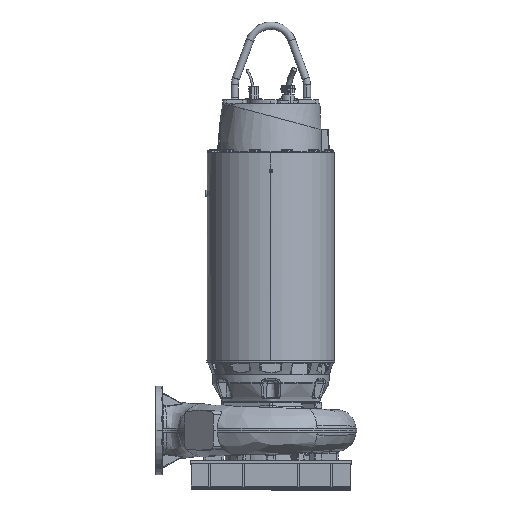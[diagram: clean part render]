
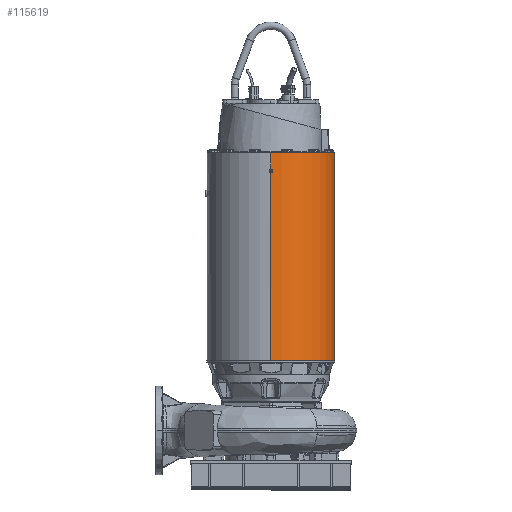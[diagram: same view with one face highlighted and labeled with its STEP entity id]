
A CAD part, top view. The second image highlights one B-rep face of the part: STEP entity #115619.
In plain terms, the highlighted cylindrical face has radius 344 mm (diameter 688 mm), a partial arc.
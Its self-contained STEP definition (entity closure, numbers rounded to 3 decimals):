
#3118 = ORIENTED_EDGE ( 'NONE', *, *, #30245, .T. ) ;
#4333 = CARTESIAN_POINT ( 'NONE',  ( 0., -20., 0. ) ) ;
#11651 = ORIENTED_EDGE ( 'NONE', *, *, #249840, .T. ) ;
#18864 = CARTESIAN_POINT ( 'NONE',  ( 0., 994.03, -344. ) ) ;
#23234 = CARTESIAN_POINT ( 'NONE',  ( 0., -20., 344. ) ) ;
#25141 = CARTESIAN_POINT ( 'NONE',  ( 0., 994.03, -344. ) ) ;
#26218 = DIRECTION ( 'NONE',  ( 1., 0., 0. ) ) ;
#30245 = EDGE_CURVE ( 'NONE', #88749, #255248, #277162, .T. ) ;
#30397 =( BOUNDED_CURVE ( )  B_SPLINE_CURVE ( 3, ( #54485, #228281, #164751, #34523 ),
 .UNSPECIFIED., .F., .F. ) 
 B_SPLINE_CURVE_WITH_KNOTS ( ( 4, 4 ),
 ( 1.571, 1.598 ),
 .UNSPECIFIED. ) 
 CURVE ( )  GEOMETRIC_REPRESENTATION_ITEM ( )  RATIONAL_B_SPLINE_CURVE ( ( 1., 1., 1., 1. ) ) 
 REPRESENTATION_ITEM ( '' )  );
#31879 = DIRECTION ( 'NONE',  ( 0., -1., 0. ) ) ;
#34054 = VERTEX_POINT ( 'NONE', #176014 ) ;
#34523 = CARTESIAN_POINT ( 'NONE',  ( 9.5, 1010.485, -343.869 ) ) ;
#35402 = CARTESIAN_POINT ( 'NONE',  ( 0., -20., -344. ) ) ;
#36623 = VECTOR ( 'NONE', #99909, 1000. ) ;
#39394 = LINE ( 'NONE', #280654, #90530 ) ;
#41840 = ORIENTED_EDGE ( 'NONE', *, *, #46504, .F. ) ;
#46504 = EDGE_CURVE ( 'NONE', #278261, #221685, #231787, .T. ) ;
#49665 = LINE ( 'NONE', #232752, #100752 ) ;
#50760 = CARTESIAN_POINT ( 'NONE',  ( 0., 1105., 344. ) ) ;
#51661 = CARTESIAN_POINT ( 'NONE',  ( 9.5, 999.515, 343.869 ) ) ;
#54485 = CARTESIAN_POINT ( 'NONE',  ( 0., 1015.97, -344. ) ) ;
#56084 = FACE_OUTER_BOUND ( 'NONE', #247282, .T. ) ;
#59370 = CARTESIAN_POINT ( 'NONE',  ( 0., 994.03, 344. ) ) ;
#61140 = VERTEX_POINT ( 'NONE', #135357 ) ;
#67082 = AXIS2_PLACEMENT_3D ( 'NONE', #96374, #226304, #183707 ) ;
#68378 = CIRCLE ( 'NONE', #241709, 344. ) ;
#69738 = CARTESIAN_POINT ( 'NONE',  ( 0., 0., 344. ) ) ;
#76750 = ORIENTED_EDGE ( 'NONE', *, *, #219601, .F. ) ;
#77981 = CARTESIAN_POINT ( 'NONE',  ( 0., 0., -344. ) ) ;
#78776 = DIRECTION ( 'NONE',  ( 0., -1., 0. ) ) ;
#85081 = LINE ( 'NONE', #69738, #200581 ) ;
#88749 = VERTEX_POINT ( 'NONE', #186926 ) ;
#89609 = CARTESIAN_POINT ( 'NONE',  ( 9.5, 1245.349, -343.869 ) ) ;
#90530 = VECTOR ( 'NONE', #257124, 1000. ) ;
#93437 = EDGE_CURVE ( 'NONE', #120115, #221685, #85081, .T. ) ;
#96374 = CARTESIAN_POINT ( 'NONE',  ( 0., 0., 0. ) ) ;
#97653 = ORIENTED_EDGE ( 'NONE', *, *, #93437, .T. ) ;
#99909 = DIRECTION ( 'NONE',  ( 0., -1., 0. ) ) ;
#100752 = VECTOR ( 'NONE', #168322, 1000. ) ;
#109195 = VERTEX_POINT ( 'NONE', #18864 ) ;
#110903 = ORIENTED_EDGE ( 'NONE', *, *, #275375, .T. ) ;
#111768 = CARTESIAN_POINT ( 'NONE',  ( 9.5, 999.515, -343.869 ) ) ;
#111936 = CARTESIAN_POINT ( 'NONE',  ( 9.5, 1010.485, 343.869 ) ) ;
#115619 = ADVANCED_FACE ( 'NONE', ( #56084 ), #259780, .T. ) ;
#120115 = VERTEX_POINT ( 'NONE', #138684 ) ;
#126740 = EDGE_CURVE ( 'NONE', #34054, #205639, #159166, .T. ) ;
#133509 = CARTESIAN_POINT ( 'NONE',  ( 6.334, 997.687, -343.956 ) ) ;
#134192 = DIRECTION ( 'NONE',  ( 0., -1., 0. ) ) ;
#135357 = CARTESIAN_POINT ( 'NONE',  ( 9.5, 999.515, -343.869 ) ) ;
#138684 = CARTESIAN_POINT ( 'NONE',  ( 0., 994.03, 344. ) ) ;
#139407 = VERTEX_POINT ( 'NONE', #202440 ) ;
#140087 =( BOUNDED_CURVE ( )  B_SPLINE_CURVE ( 3, ( #230321, #143991, #189572, #59370 ),
 .UNSPECIFIED., .F., .F. ) 
 B_SPLINE_CURVE_WITH_KNOTS ( ( 4, 4 ),
 ( 1.543, 1.571 ),
 .UNSPECIFIED. ) 
 CURVE ( )  GEOMETRIC_REPRESENTATION_ITEM ( )  RATIONAL_B_SPLINE_CURVE ( ( 1., 1., 1., 1. ) ) 
 REPRESENTATION_ITEM ( '' )  );
#143024 = EDGE_CURVE ( 'NONE', #197737, #61140, #281312, .T. ) ;
#143991 = CARTESIAN_POINT ( 'NONE',  ( 6.334, 997.687, 343.956 ) ) ;
#147595 = EDGE_CURVE ( 'NONE', #160144, #139407, #49665, .T. ) ;
#155071 =( BOUNDED_CURVE ( )  B_SPLINE_CURVE ( 3, ( #197361, #219129, #241784, #111936 ),
 .UNSPECIFIED., .F., .T. ) 
 B_SPLINE_CURVE_WITH_KNOTS ( ( 4, 4 ),
 ( 1.571, 1.598 ),
 .UNSPECIFIED. ) 
 CURVE ( )  GEOMETRIC_REPRESENTATION_ITEM ( )  RATIONAL_B_SPLINE_CURVE ( ( 1., 1., 1., 1. ) ) 
 REPRESENTATION_ITEM ( '' )  );
#155397 = CARTESIAN_POINT ( 'NONE',  ( 3.167, 995.859, -344. ) ) ;
#156468 = DIRECTION ( 'NONE',  ( 0., -1., 0. ) ) ;
#159166 = LINE ( 'NONE', #77981, #36623 ) ;
#160144 = VERTEX_POINT ( 'NONE', #50760 ) ;
#162091 = CARTESIAN_POINT ( 'NONE',  ( 0., 1105., 0. ) ) ;
#164751 = CARTESIAN_POINT ( 'NONE',  ( 6.334, 1012.313, -343.956 ) ) ;
#168322 = DIRECTION ( 'NONE',  ( 0., -1., 0. ) ) ;
#176014 = CARTESIAN_POINT ( 'NONE',  ( 0., 1105., -344. ) ) ;
#183707 = DIRECTION ( 'NONE',  ( 0., 0., -1. ) ) ;
#183925 = DIRECTION ( 'NONE',  ( 0., 0., -1. ) ) ;
#186926 = CARTESIAN_POINT ( 'NONE',  ( 9.5, 1010.485, 343.869 ) ) ;
#188010 = CARTESIAN_POINT ( 'NONE',  ( 9.5, 1245.349, 343.869 ) ) ;
#189572 = CARTESIAN_POINT ( 'NONE',  ( 3.167, 995.859, 344. ) ) ;
#191780 = CARTESIAN_POINT ( 'NONE',  ( 0., 1015.97, -344. ) ) ;
#193886 = EDGE_CURVE ( 'NONE', #61140, #109195, #196730, .T. ) ;
#196730 =( BOUNDED_CURVE ( )  B_SPLINE_CURVE ( 3, ( #111768, #133509, #155397, #25141 ),
 .UNSPECIFIED., .F., .F. ) 
 B_SPLINE_CURVE_WITH_KNOTS ( ( 4, 4 ),
 ( 1.543, 1.571 ),
 .UNSPECIFIED. ) 
 CURVE ( )  GEOMETRIC_REPRESENTATION_ITEM ( )  RATIONAL_B_SPLINE_CURVE ( ( 1., 1., 1., 1. ) ) 
 REPRESENTATION_ITEM ( '' )  );
#197361 = CARTESIAN_POINT ( 'NONE',  ( 0., 1015.97, 344. ) ) ;
#197737 = VERTEX_POINT ( 'NONE', #218391 ) ;
#199866 = DIRECTION ( 'NONE',  ( 0., -1., 0. ) ) ;
#200581 = VECTOR ( 'NONE', #199866, 1000. ) ;
#202440 = CARTESIAN_POINT ( 'NONE',  ( 0., 1015.97, 344. ) ) ;
#205639 = VERTEX_POINT ( 'NONE', #191780 ) ;
#205909 = ORIENTED_EDGE ( 'NONE', *, *, #193886, .F. ) ;
#206119 = EDGE_CURVE ( 'NONE', #255248, #120115, #140087, .T. ) ;
#218391 = CARTESIAN_POINT ( 'NONE',  ( 9.5, 1010.485, -343.869 ) ) ;
#219129 = CARTESIAN_POINT ( 'NONE',  ( 3.167, 1014.141, 344. ) ) ;
#219601 = EDGE_CURVE ( 'NONE', #109195, #278261, #39394, .T. ) ;
#221685 = VERTEX_POINT ( 'NONE', #23234 ) ;
#223832 = VECTOR ( 'NONE', #134192, 1000. ) ;
#226304 = DIRECTION ( 'NONE',  ( 0., -1., 0. ) ) ;
#226475 = VECTOR ( 'NONE', #78776, 1000. ) ;
#228281 = CARTESIAN_POINT ( 'NONE',  ( 3.167, 1014.141, -344. ) ) ;
#230321 = CARTESIAN_POINT ( 'NONE',  ( 9.5, 999.515, 343.869 ) ) ;
#231787 = CIRCLE ( 'NONE', #269198, 344. ) ;
#232752 = CARTESIAN_POINT ( 'NONE',  ( 0., 0., 344. ) ) ;
#241709 = AXIS2_PLACEMENT_3D ( 'NONE', #162091, #31879, #183925 ) ;
#241784 = CARTESIAN_POINT ( 'NONE',  ( 6.334, 1012.313, 343.956 ) ) ;
#247282 = EDGE_LOOP ( 'NONE', ( #11651, #281166, #110903, #3118, #258894, #97653, #41840, #76750, #205909, #278958, #263466, #252405 ) ) ;
#249840 = EDGE_CURVE ( 'NONE', #34054, #160144, #68378, .T. ) ;
#252405 = ORIENTED_EDGE ( 'NONE', *, *, #126740, .F. ) ;
#255248 = VERTEX_POINT ( 'NONE', #51661 ) ;
#257124 = DIRECTION ( 'NONE',  ( 0., -1., 0. ) ) ;
#258894 = ORIENTED_EDGE ( 'NONE', *, *, #206119, .T. ) ;
#259780 = CYLINDRICAL_SURFACE ( 'NONE', #67082, 344. ) ;
#263466 = ORIENTED_EDGE ( 'NONE', *, *, #276258, .F. ) ;
#269198 = AXIS2_PLACEMENT_3D ( 'NONE', #4333, #156468, #26218 ) ;
#275375 = EDGE_CURVE ( 'NONE', #139407, #88749, #155071, .T. ) ;
#276258 = EDGE_CURVE ( 'NONE', #205639, #197737, #30397, .T. ) ;
#277162 = LINE ( 'NONE', #188010, #226475 ) ;
#278261 = VERTEX_POINT ( 'NONE', #35402 ) ;
#278958 = ORIENTED_EDGE ( 'NONE', *, *, #143024, .F. ) ;
#280654 = CARTESIAN_POINT ( 'NONE',  ( 0., 0., -344. ) ) ;
#281166 = ORIENTED_EDGE ( 'NONE', *, *, #147595, .T. ) ;
#281312 = LINE ( 'NONE', #89609, #223832 ) ;
